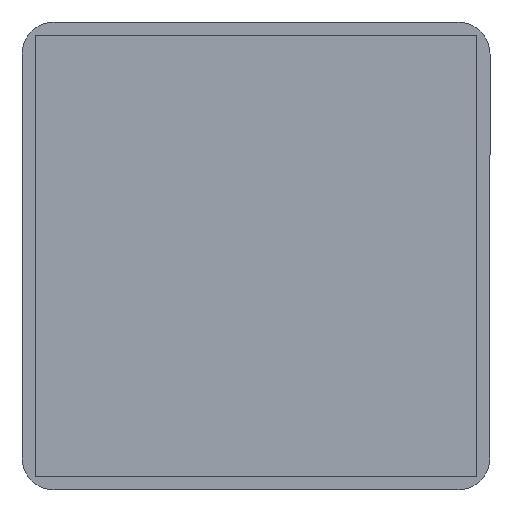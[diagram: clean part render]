
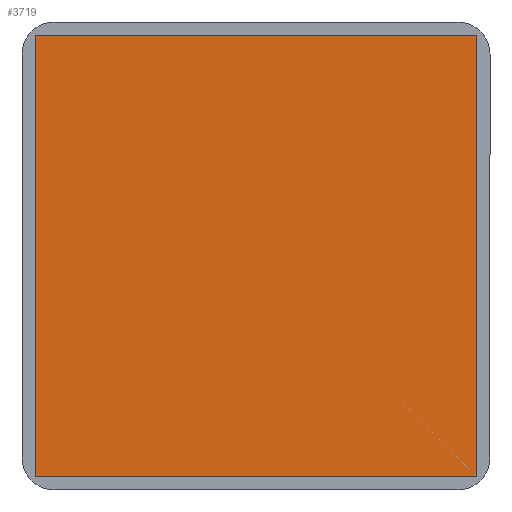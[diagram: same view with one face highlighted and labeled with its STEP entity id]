
A CAD part, front view. The second image highlights one B-rep face of the part: STEP entity #3719.
In plain terms, the highlighted planar face has unit normal (0, -1, 0).
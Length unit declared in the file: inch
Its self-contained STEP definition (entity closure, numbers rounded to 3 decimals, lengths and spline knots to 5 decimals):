
#237 = ORIENTED_EDGE ( 'NONE', *, *, #16024, .F. ) ;
#448 = CARTESIAN_POINT ( 'NONE',  ( 0.68898, -0.005, -0.68898 ) ) ;
#1257 = CARTESIAN_POINT ( 'NONE',  ( -0.68898, -0.005, 0.68898 ) ) ;
#1316 = VECTOR ( 'NONE', #14468, 39.37008 ) ;
#1395 = LINE ( 'NONE', #2559, #6234 ) ;
#1461 = CARTESIAN_POINT ( 'NONE',  ( 0.68898, -0.005, -0.68898 ) ) ;
#1857 = CARTESIAN_POINT ( 'NONE',  ( 0.68898, -0.005, 0.68898 ) ) ;
#2554 = ORIENTED_EDGE ( 'NONE', *, *, #12570, .F. ) ;
#2559 = CARTESIAN_POINT ( 'NONE',  ( -0.68898, -0.005, -0.68898 ) ) ;
#2716 = VERTEX_POINT ( 'NONE', #5152 ) ;
#2718 = CARTESIAN_POINT ( 'NONE',  ( -0.68898, -0.005, 0.68898 ) ) ;
#3016 = CARTESIAN_POINT ( 'NONE',  ( -0.68898, -0.005, -0.68898 ) ) ;
#3449 = VERTEX_POINT ( 'NONE', #6934 ) ;
#3522 = FACE_OUTER_BOUND ( 'NONE', #15470, .T. ) ;
#3649 = LINE ( 'NONE', #2718, #12942 ) ;
#3719 = ADVANCED_FACE ( 'NONE', ( #3522 ), #4691, .F. ) ;
#4096 = DIRECTION ( 'NONE',  ( 0., 1., 0. ) ) ;
#4691 = PLANE ( 'NONE',  #5880 ) ;
#5002 = EDGE_CURVE ( 'NONE', #12576, #13153, #14541, .T. ) ;
#5152 = CARTESIAN_POINT ( 'NONE',  ( -0.68898, -0.005, 0.68898 ) ) ;
#5414 = VECTOR ( 'NONE', #15522, 39.37008 ) ;
#5419 = DIRECTION ( 'NONE',  ( 0., 0., 1. ) ) ;
#5880 = AXIS2_PLACEMENT_3D ( 'NONE', #1257, #4096, #5419 ) ;
#6146 = EDGE_CURVE ( 'NONE', #3449, #2716, #1395, .T. ) ;
#6234 = VECTOR ( 'NONE', #13863, 39.37008 ) ;
#6934 = CARTESIAN_POINT ( 'NONE',  ( -0.68898, -0.005, -0.68898 ) ) ;
#10205 = ORIENTED_EDGE ( 'NONE', *, *, #5002, .F. ) ;
#10710 = LINE ( 'NONE', #3016, #1316 ) ;
#12570 = EDGE_CURVE ( 'NONE', #13153, #3449, #10710, .T. ) ;
#12576 = VERTEX_POINT ( 'NONE', #1857 ) ;
#12942 = VECTOR ( 'NONE', #15067, 39.37008 ) ;
#13153 = VERTEX_POINT ( 'NONE', #1461 ) ;
#13863 = DIRECTION ( 'NONE',  ( 0., 0., 1. ) ) ;
#14468 = DIRECTION ( 'NONE',  ( -1., 0., 0. ) ) ;
#14541 = LINE ( 'NONE', #448, #5414 ) ;
#15067 = DIRECTION ( 'NONE',  ( 1., 0., 0. ) ) ;
#15470 = EDGE_LOOP ( 'NONE', ( #16226, #2554, #10205, #237 ) ) ;
#15522 = DIRECTION ( 'NONE',  ( 0., 0., -1. ) ) ;
#16024 = EDGE_CURVE ( 'NONE', #2716, #12576, #3649, .T. ) ;
#16226 = ORIENTED_EDGE ( 'NONE', *, *, #6146, .F. ) ;
